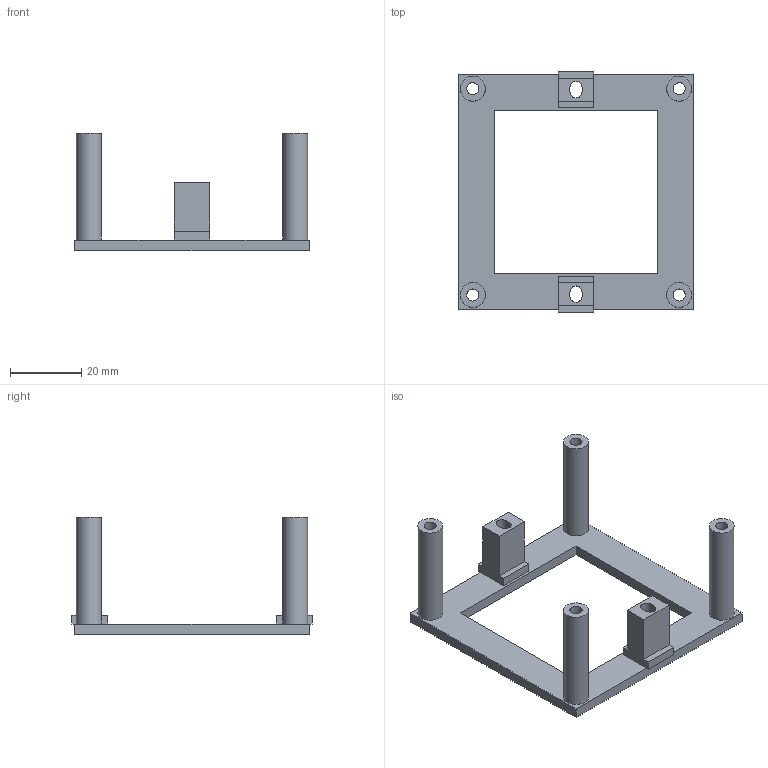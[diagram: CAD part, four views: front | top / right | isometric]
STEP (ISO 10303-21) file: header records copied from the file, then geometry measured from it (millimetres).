
FILE_DESCRIPTION(('Open CASCADE Model'),'2;1');
FILE_NAME('Open CASCADE Shape Model','2026-10-02T07:52:38',('Author'),( 'Open CASCADE'),'Open CASCADE STEP processor 7.8','Open CASCADE 7.8' ,'Unknown');
FILE_SCHEMA(('AUTOMOTIVE_DESIGN { 1 0 10303 214 1 1 1 1 }'));
Length unit declared in the file: millimetre
Products named in the file (1): Open CASCADE STEP translator 7.8 5
Bounding box: 66 x 67.5 x 33 mm (x, y, z)
Volume: 11758.8 mm3; surface area: 11440.4 mm2
Topology: 1 solids, 1 shells, 60 faces, 152 edges, 100 vertices
Faces by surface type: plane 44, cylinder 16
Full cylindrical faces by diameter (mm): 3.4 x4, 7 x4
Entity records: 3770 total; most frequent: CARTESIAN_POINT 657, DIRECTION 570, LINE 352, VECTOR 352, ORIENTED_EDGE 304, PCURVE 304, DEFINITIONAL_REPRESENTATION 304, EDGE_CURVE 152
